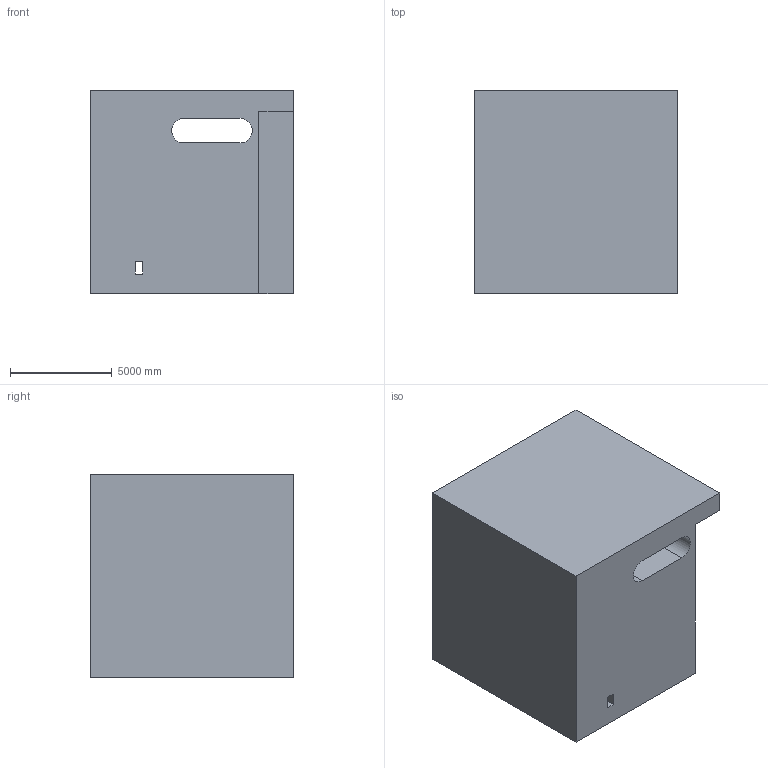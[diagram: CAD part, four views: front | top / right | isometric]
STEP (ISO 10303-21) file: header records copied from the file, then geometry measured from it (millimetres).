
FILE_DESCRIPTION (( 'STEP AP203' ), '1' );
FILE_NAME ('137.STEP', '2022-09-05T15:41:00', ( 'user' ), ( '' ), 'SwSTEP 2.0', 'SolidWorks 2021', '' );
FILE_SCHEMA (( 'CONFIG_CONTROL_DESIGN' ));
Length unit declared in the file: centimetre
Products named in the file (1): 137
Bounding box: 10000 x 10000 x 10000 mm (x, y, z)
Volume: 878875727260.4 mm3; surface area: 741933740.6 mm2
Topology: 1 solids, 1 shells, 20 faces, 51 edges, 34 vertices
Faces by surface type: plane 16, cylinder 4
Entity records: 688 total; most frequent: CARTESIAN_POINT 106, ORIENTED_EDGE 102, DIRECTION 101, EDGE_CURVE 51, VECTOR 43, LINE 43, VERTEX_POINT 34, AXIS2_PLACEMENT_3D 29
